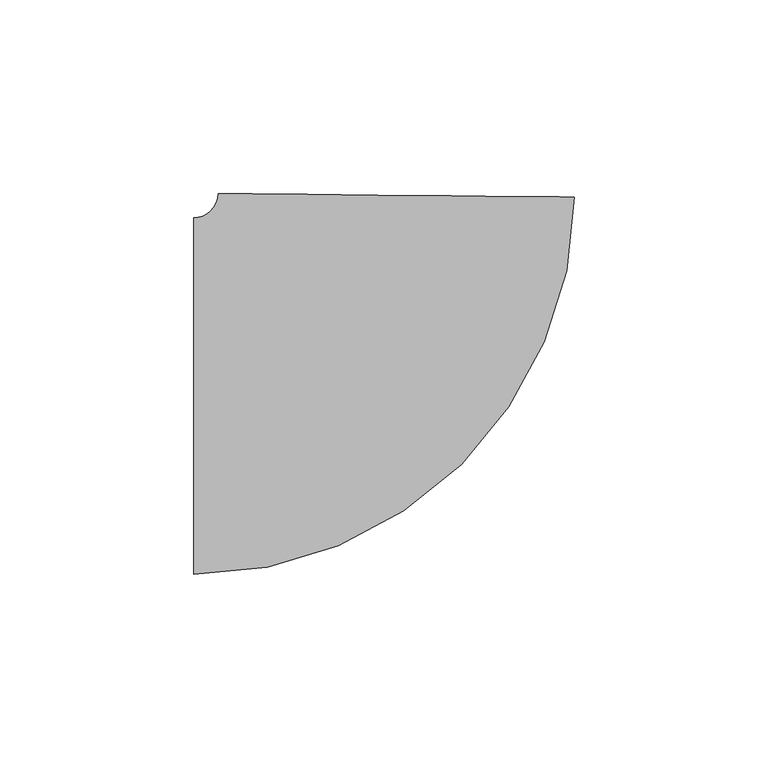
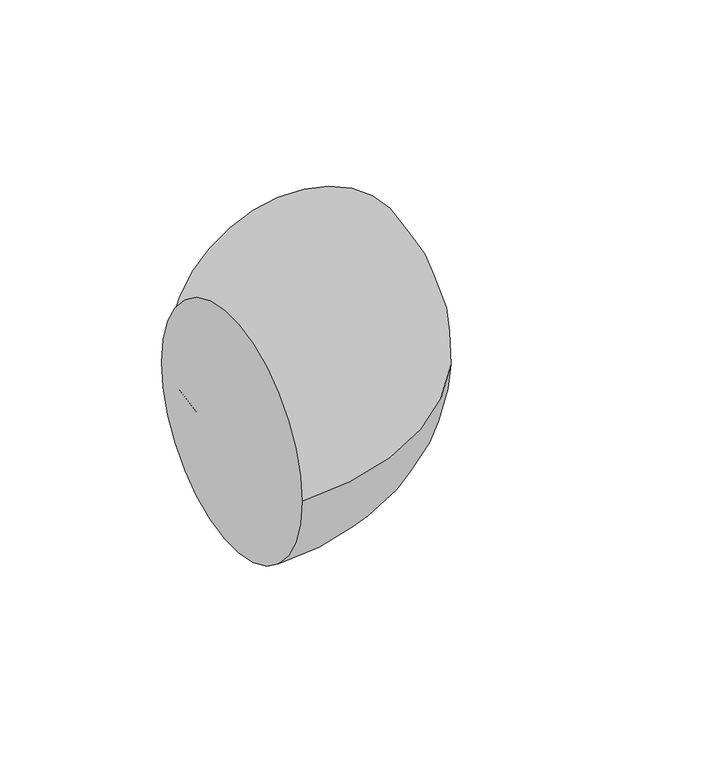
"""IFC4 building model written with IfcOpenShell, lengths in millimetres: pipe fitting geometry, M_Codo - Genérico : Estándar."""

from ifc_helpers import new_model, si_unit, point, frame, origin, place, context, project, spatial, circle_curve, ellipse_curve, trimmed, source, transform, mapped, element, save
from ifc_brep_helpers import plane_surface, revolved_surface, advanced_brep


def pipe_fitting_5d983f20(model_context):
    return source(origin(), model_context, "Body", "AdvancedBrep", [
        advanced_brep(
        [(-51.8635272, -46.0375, 0.0), (-51.8635272, 46.0375, 0.0), (46.5565002, 51.3981434, 0.0), (-45.513848, 52.3236705, 0.0)],
        [
            (0, 1, circle_curve(frame((-51.8635272, 0.0, 0.0), z_axis=(-1.0, 0.0, 0.0), x_axis=(0.0, 1.0, 0.0)), 46.0375)),
            (1, 0, circle_curve(frame((-51.8635272, 0.0, 0.0), z_axis=(-1.0, 0.0, 0.0), x_axis=(0.0, 1.0, 0.0)), 46.0375)),
            (2, 3, circle_curve(frame((0.5213261, 51.860907, 0.0), z_axis=(0.010051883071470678, 0.9999494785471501, 0.0), x_axis=(-0.9999494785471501, 0.010051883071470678, 0.0)), 46.0375)),
            (3, 2, circle_curve(frame((0.5213261, 51.860907, 0.0), z_axis=(0.010051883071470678, 0.9999494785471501, 0.0), x_axis=(-0.9999494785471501, 0.010051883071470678, 0.0)), 46.0375)),
            (3, 1, circle_curve(frame((-51.8635272, 52.3875, 0.0), z_axis=(0.0, 0.0, -1.0), x_axis=(0.0, -1.0, 0.0)), 6.35)),
            (0, 2, circle_curve(frame((-51.8635272, 52.3875, 0.0), z_axis=(0.0, 0.0, 1.0), x_axis=(0.0, -1.0, 0.0)), 98.425)),
        ],
        [
            plane_surface(frame((-51.8635272, 0.0, 0.0), z_axis=(-1.0, 0.0, 0.0), x_axis=(0.0, 0.0, 1.0))),
            plane_surface(frame((0.5213261, 51.860907, 0.0), z_axis=(0.010051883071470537, 0.9999494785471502, 0.0), x_axis=(0.0, 0.0, 1.0))),
            revolved_surface(trimmed(ellipse_curve(frame((-51.8635272, 0.0, 0.0), z_axis=(-1.0, 0.0, 0.0), x_axis=(0.0, 1.0, 0.0)), 46.0375, 46.0375), [point((-51.8635272, -46.0375, 0.0))], [point((-51.8635272, 46.0375, 0.0))], True, "CARTESIAN"), (-51.8635272, 52.3875, 0.0), (0.0, 0.0, 1.0)),
            revolved_surface(trimmed(ellipse_curve(frame((-51.8635272, 0.0, 0.0), z_axis=(-1.0, 0.0, 0.0), x_axis=(0.0, 1.0, 0.0)), 46.0375, 46.0375), [point((-51.8635272, 46.0375, 0.0))], [point((-51.8635272, -46.0375, 0.0))], True, "CARTESIAN"), (-51.8635272, 52.3875, 0.0), (0.0, 0.0, 1.0)),
        ],
        [
            (0, [[1, 2]]),
            (1, [[3, 4]]),
            (2, [[5, -1, 6, -4]]),
            (3, [[-6, -2, -5, -3]]),
        ],
    ),
    ])


if __name__ == "__main__":
    model = new_model("IFC4")
    model_context = context("Model", 3, world=origin())
    ifc_project = project(units=[si_unit("LENGTHUNIT", "METRE", prefix="MILLI")], contexts=[model_context])
    site = spatial("IfcSite", under=ifc_project)
    building = spatial("IfcBuilding", under=site)
    placement = place(None, origin())
    pipe_fitting_shape = pipe_fitting_5d983f20(model_context)
    element("IfcPipeFitting", 1, ObjectType="M_Codo - Genérico : Estándar", at=placement, inside=building, context=model_context, shape_type="MappedRepresentation", body=[
        mapped(pipe_fitting_shape, transform((0.0, 0.0, 0.0), x_axis=(1.0, 0.0, 0.0), y_axis=(0.0, 1.0, 0.0), z_axis=(0.0, 0.0, 1.0))),
    ])
    save(model, "model.ifc")
